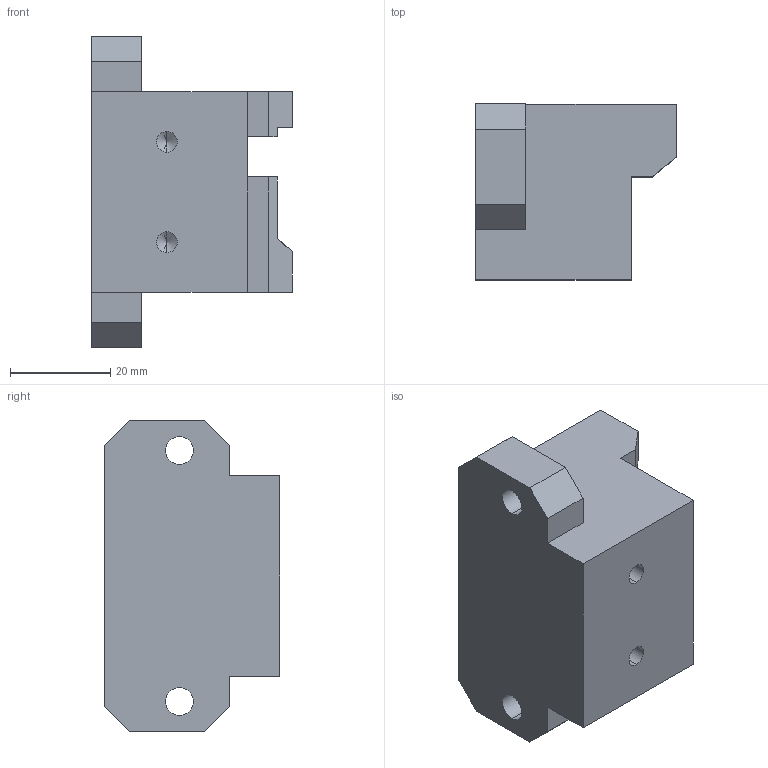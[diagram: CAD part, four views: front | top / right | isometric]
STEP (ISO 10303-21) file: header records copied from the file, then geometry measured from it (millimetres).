
FILE_DESCRIPTION (( 'STEP AP214' ), '1' );
FILE_NAME ('TAT0010044-11-B1固定座.STEP', '2021-04-23T05:27:53', ( '微软中国' ), ( 'Microsoft' ), 'SwSTEP 2.0', 'SolidWorks 2017', '' );
FILE_SCHEMA (( 'AUTOMOTIVE_DESIGN' ));
Length unit declared in the file: millimetre
Products named in the file (1): TAT0010044-11-B1嘐隅釱
Bounding box: 40 x 35 x 62 mm (x, y, z)
Volume: 44550.9 mm3; surface area: 11157.9 mm2
Topology: 1 solids, 1 shells, 69 faces, 189 edges, 120 vertices
Faces by surface type: plane 52, cylinder 13, cone 4
Entity records: 2211 total; most frequent: CARTESIAN_POINT 375, ORIENTED_EDGE 370, DIRECTION 351, EDGE_CURVE 185, LINE 159, VECTOR 159, VERTEX_POINT 120, AXIS2_PLACEMENT_3D 96
